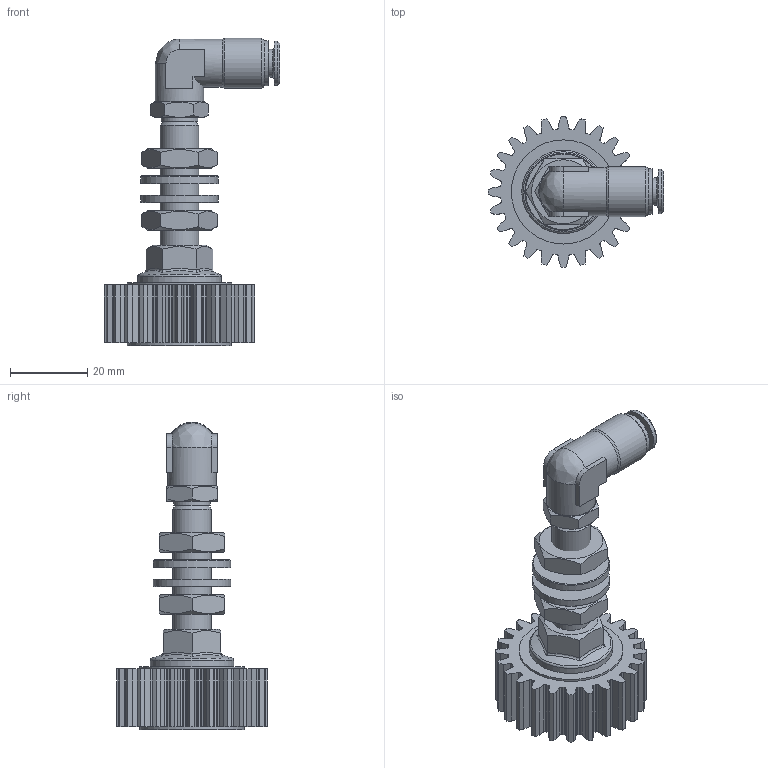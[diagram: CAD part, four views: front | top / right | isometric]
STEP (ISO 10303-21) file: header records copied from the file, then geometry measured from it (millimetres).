
FILE_DESCRIPTION (( 'STEP AP214' ), '1' );
FILE_NAME ('012_13_015_15_24AZ.STEP', '2026-04-01T11:35:48', ( '' ), ( '' ), 'SwSTEP 2.0', 'SolidWorks 2022', '' );
FILE_SCHEMA (( 'AUTOMOTIVE_DESIGN' ));
Length unit declared in the file: millimetre
Products named in the file (13): H214667-HDS_1-8_M6X1Z; 12012_06_01_Scheibe-CRS-VA_27.SLDASM; Schmierzahnrad_015_24_G; U_Scheibe_10.5; Mutter_M10; R11155-N2; DR6-C_HDX_25.07.16; OR 7.2X1.9; 012_13_015_15_24AZ; H202225_HDS_022_6_M6_28.09.22; Achse_M10_1_Schmierzahnrad; 012_06_Senkschraube
Assembly tree (14 placements, depth 4):
  012_13_015_15_24AZ
    Schmierzahnrad_015_24_G
    Achse_M10_1_Schmierzahnrad
    12012_06_01_Scheibe-CRS-VA_27.SLDASM
    012_06_Senkschraube
    Mutter_M10  x2
    U_Scheibe_10.5  x2
    H202225_HDS_022_6_M6_28.09.22
      R11155-N2
      DR6-C_HDX_25.07.16
      H214667-HDS_1-8_M6X1Z
        H214667-HDS_1-8_M6X1Z
        OR 7.2X1.9
Bounding box: 45.5 x 39 x 79.7 mm (x, y, z)
Volume: 26268.4 mm3; surface area: 17267.8 mm2
Topology: 12 solids, 12 shells, 735 faces, 1996 edges, 1321 vertices
Faces by surface type: plane 472, cylinder 114, bspline 95, cone 50, torus 4
Full cylindrical faces by diameter (mm): 2 x1, 4 x1, 4.6 x1, 5 x1, 5.5 x1, 6 x2, 6.2 x1, 6.3 x1, 7.2 x1, 8.5 x2, 9 x2, 9.5 x1, 9.9 x1, 10 x2, 10.1 x2, 10.3 x1, 10.5 x2, 11.5 x1, 11.7 x1, 12.5 x2, 13 x1, 20 x2, 21.6 x1, 27 x2
Entity records: 30567 total; most frequent: CARTESIAN_POINT 11891, ORIENTED_EDGE 3680, DIRECTION 3110, EDGE_CURVE 1840, VECTOR 1292, LINE 1292, VERTEX_POINT 1252, AXIS2_PLACEMENT_3D 909
